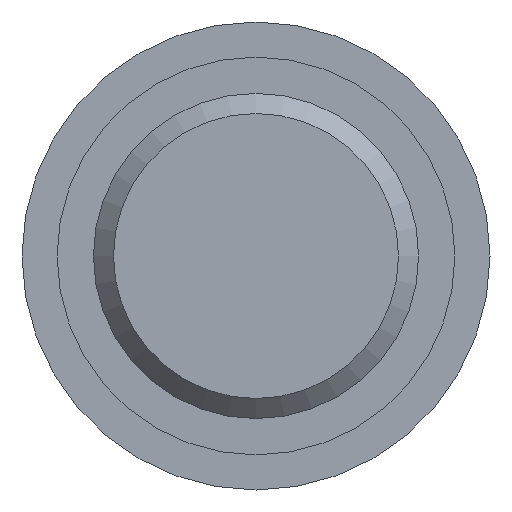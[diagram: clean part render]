
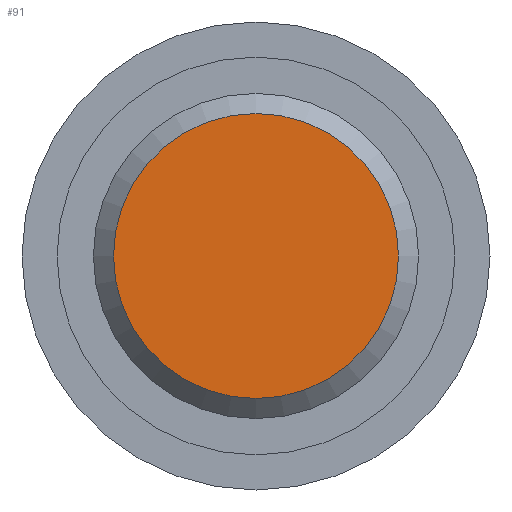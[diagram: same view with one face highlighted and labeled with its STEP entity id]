
A CAD part, front view. The second image highlights one B-rep face of the part: STEP entity #91.
In plain terms, the highlighted planar face has unit normal (0, -1, 0).
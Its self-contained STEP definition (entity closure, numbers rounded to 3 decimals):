
#91 = ADVANCED_FACE( '', ( #138 ), #139, .F. );
#138 = FACE_OUTER_BOUND( '', #193, .T. );
#139 = PLANE( '', #194 );
#193 = EDGE_LOOP( '', ( #308 ) );
#194 = AXIS2_PLACEMENT_3D( '', #309, #310, #311 );
#308 = ORIENTED_EDGE( '', *, *, #359, .T. );
#309 = CARTESIAN_POINT( '', ( 4.264, 0., 0. ) );
#310 = DIRECTION( '', ( 0., 1., 0. ) );
#311 = DIRECTION( '', ( 0., 0., 1. ) );
#359 = EDGE_CURVE( '', #411, #411, #412, .T. );
#411 = VERTEX_POINT( '', #485 );
#412 = CIRCLE( '', #486, 4.264 );
#485 = CARTESIAN_POINT( '', ( 0., 0., -4.264 ) );
#486 = AXIS2_PLACEMENT_3D( '', #538, #539, #540 );
#538 = CARTESIAN_POINT( '', ( 0., 0., 0. ) );
#539 = DIRECTION( '', ( 0., -1., 0. ) );
#540 = DIRECTION( '', ( 0., 0., -1. ) );
